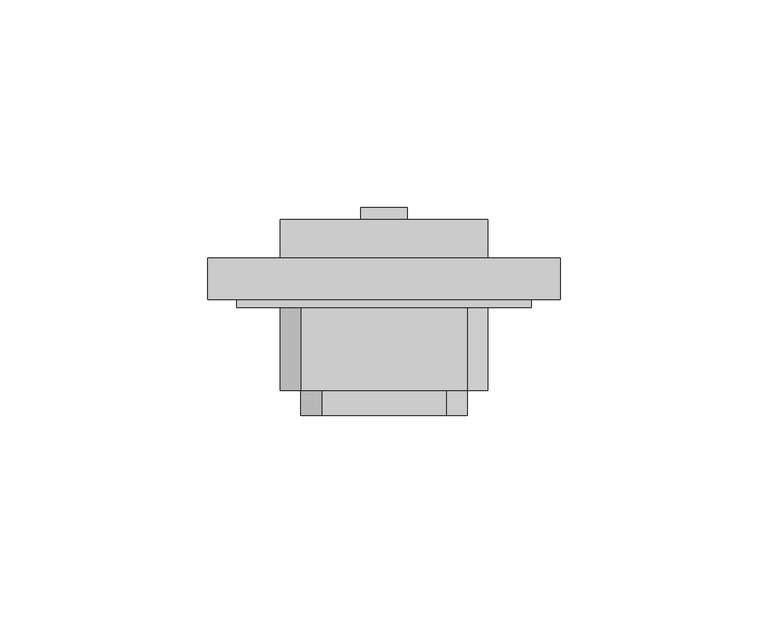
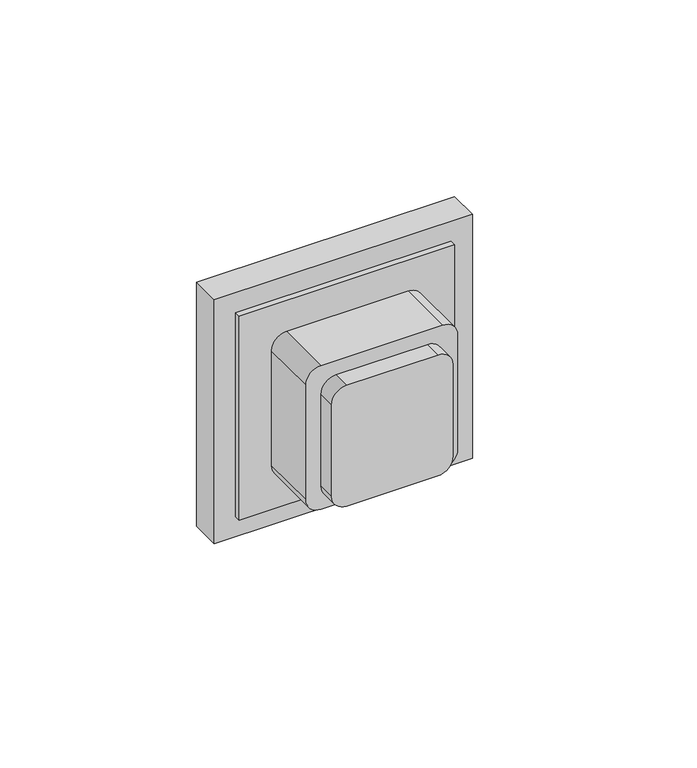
"""IFC4 building model written with IfcOpenShell, lengths in millimetres: proxy geometry, AI_Instal elec_Prise RJ45 : RJ 45 Murale."""

from ifc_helpers import new_model, si_unit, point, frame, frame_2d, origin, origin_2d, place, context, project, spatial, polyline, circle_curve, trimmed, segment, composite_curve, outline, extrude, source, transform, mapped, element, save


def electrical_fixtures_f93b5bb2(model_context):
    return source(origin(), model_context, "Body", "SweptSolid", [
        extrude(outline(composite_curve([segment(polyline([(15.0, -20.0), (-17.0, -20.0)]), True, "CONTINUOUS"), segment(trimmed(circle_curve(frame_2d((-17.0, -15.0)), 5.0), [point((-17.0, -20.0))], [point((-22.0, -15.0))], False, "CARTESIAN"), True, "CONTINUOUS"), segment(polyline([(-22.0, -15.0), (-22.0, 15.0)]), True, "CONTINUOUS"), segment(trimmed(circle_curve(frame_2d((-17.0, 15.0)), 5.0), [point((-22.0, 15.0))], [point((-17.0, 20.0))], False, "CARTESIAN"), True, "CONTINUOUS"), segment(polyline([(-17.0, 20.0), (15.0, 20.0)]), True, "CONTINUOUS"), segment(trimmed(circle_curve(frame_2d((15.0, 15.0)), 5.0), [point((15.0, 20.0))], [point((20.0, 15.0))], False, "CARTESIAN"), True, "CONTINUOUS"), segment(polyline([(20.0, 15.0), (20.0, -15.0)]), True, "CONTINUOUS"), segment(trimmed(circle_curve(frame_2d((15.0, -15.0)), 5.0), [point((20.0, -15.0))], [point((15.0, -20.0))], False, "CARTESIAN"), True, "CONTINUOUS")], self_intersect=False)), frame((0.0, -28.0, 0.0), z_axis=(0.0, 1.0, 0.0), x_axis=(0.0, 0.0, 1.0)), (0.0, 0.0, 1.0), 6.0),
        extrude(outline(polyline([(-35.5, 0.0), (35.5, 0.0), (35.5, -2.0), (-35.5, -2.0), (-35.5, 0.0)])), frame((0.0, 0.0, -35.5), z_axis=(0.0, 0.0, 1.0), x_axis=(1.0, 0.0, 0.0)), (0.0, 0.0, 1.0), 71.0),
        extrude(outline(composite_curve([segment(polyline([(20.0, -25.0), (-20.0, -25.0)]), True, "CONTINUOUS"), segment(trimmed(circle_curve(frame_2d((-20.0, -20.0)), 5.0), [point((-20.0, -25.0))], [point((-25.0, -20.0))], False, "CARTESIAN"), True, "CONTINUOUS"), segment(polyline([(-25.0, -20.0), (-25.0, 20.0)]), True, "CONTINUOUS"), segment(trimmed(circle_curve(frame_2d((-20.0, 20.0)), 5.0), [point((-25.0, 20.0))], [point((-20.0, 25.0))], False, "CARTESIAN"), True, "CONTINUOUS"), segment(polyline([(-20.0, 25.0), (20.0, 25.0)]), True, "CONTINUOUS"), segment(trimmed(circle_curve(frame_2d((20.0, 20.0)), 5.0), [point((20.0, 25.0))], [point((25.0, 20.0))], False, "CARTESIAN"), True, "CONTINUOUS"), segment(polyline([(25.0, 20.0), (25.0, -20.0)]), True, "CONTINUOUS"), segment(trimmed(circle_curve(frame_2d((20.0, -20.0)), 5.0), [point((25.0, -20.0))], [point((20.0, -25.0))], False, "CARTESIAN"), True, "CONTINUOUS")], self_intersect=False)), frame((0.0, -22.0, 0.0), z_axis=(0.0, 1.0, 0.0), x_axis=(0.0, 0.0, 1.0)), (0.0, 0.0, 1.0), 20.0),
        extrude(outline(polyline([(-42.5, 10.0), (42.5, 10.0), (42.5, 0.0), (-42.5, 0.0), (-42.5, 10.0)])), frame((0.0, 0.0, -42.5), z_axis=(0.0, 0.0, 1.0), x_axis=(1.0, 0.0, 0.0)), (0.0, 0.0, 1.0), 85.0),
        extrude(outline(polyline([(2.5682168, -5.6016634), (-5.0061166, -5.6016634), (-5.0061166, -2.0910502), (-6.781351, -2.0910502), (-6.781351, 2.0910502), (-5.0061166, 2.0910502), (-5.0061166, 5.6016634), (2.5682168, 5.6016634), (2.5682168, -5.6016634)])), frame((0.0, 19.2487018, 0.0), z_axis=(0.0, 1.0, 0.0), x_axis=(0.0, 0.0, 1.0)), (0.0, 0.0, 1.0), 2.9208408),
        extrude(outline(polyline([(-25.0, 19.2487018), (25.0, 19.2487018), (25.0, 10.0), (-25.0, 10.0), (-25.0, 19.2487018)])), frame((0.0, 0.0, -25.0), z_axis=(0.0, 0.0, 1.0), x_axis=(1.0, 0.0, 0.0)), (0.0, 0.0, 1.0), 50.0),
        extrude(outline(composite_curve([segment(trimmed(circle_curve(origin_2d(), 10.0), [point((0.0, -10.0))], [point((0.0, 10.0))], False, "CARTESIAN"), True, "CONTINUOUS"), segment(trimmed(circle_curve(origin_2d(), 10.0), [point((0.0, 10.0))], [point((0.0, -10.0))], False, "CARTESIAN"), True, "CONTINUOUS")], self_intersect=False)), frame((0.0, 0.0, 0.0), z_axis=(0.0, 1.0, 0.0), x_axis=(0.0, 0.0, 1.0)), (0.0, 0.0, 1.0), 10.0),
    ])


if __name__ == "__main__":
    model = new_model("IFC4")
    model_context = context("Model", 3, world=origin())
    ifc_project = project(units=[si_unit("LENGTHUNIT", "METRE", prefix="MILLI")], contexts=[model_context])
    site = spatial("IfcSite", under=ifc_project)
    building = spatial("IfcBuilding", under=site)
    placement = place(None, origin())
    electrical_fixtures_shape = electrical_fixtures_f93b5bb2(model_context)
    element("IfcBuildingElementProxy", 1, Name="AI_Instal elec_Prise RJ45 : RJ 45 Murale", ObjectType="AI_Instal elec_Prise RJ45 : RJ 45 Murale", at=placement, inside=building, context=model_context, shape_type="MappedRepresentation", body=[
        mapped(electrical_fixtures_shape, transform((0.0, 0.0, 0.0), x_axis=(1.0, 0.0, 0.0), y_axis=(0.0, 1.0, 0.0), z_axis=(0.0, 0.0, 1.0))),
    ])
    save(model, "model.ifc")
